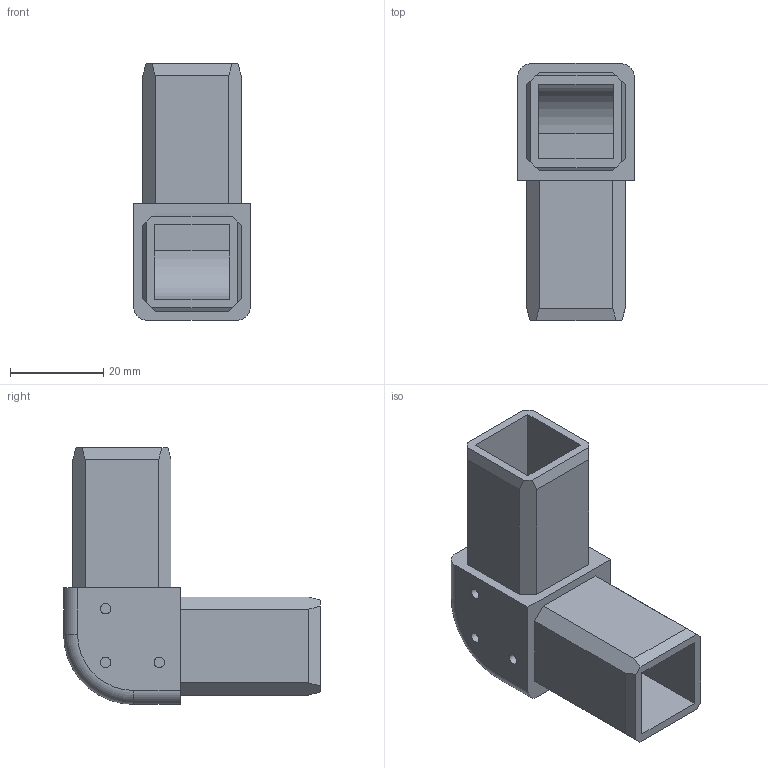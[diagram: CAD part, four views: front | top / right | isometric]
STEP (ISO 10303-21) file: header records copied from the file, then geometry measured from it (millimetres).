
FILE_DESCRIPTION (( 'STEP AP214' ), '1' );
FILE_NAME ('L15805.step', '2024-12-03T16:18:53', ( '' ), ( '' ), 'SwSTEP 2.0', 'SolidWorks 2023', '' );
FILE_SCHEMA (( 'AUTOMOTIVE_DESIGN' ));
Length unit declared in the file: millimetre
Products named in the file (1): L15805
Bounding box: 25 x 55 x 55 mm (x, y, z)
Volume: 18358.5 mm3; surface area: 12843 mm2
Topology: 1 solids, 1 shells, 49 faces, 134 edges, 89 vertices
Faces by surface type: plane 38, cylinder 9, torus 2
Full cylindrical faces by diameter (mm): 2.25 x3
Entity records: 1537 total; most frequent: CARTESIAN_POINT 264, ORIENTED_EDGE 256, DIRECTION 248, EDGE_CURVE 128, LINE 108, VECTOR 108, VERTEX_POINT 86, AXIS2_PLACEMENT_3D 70
